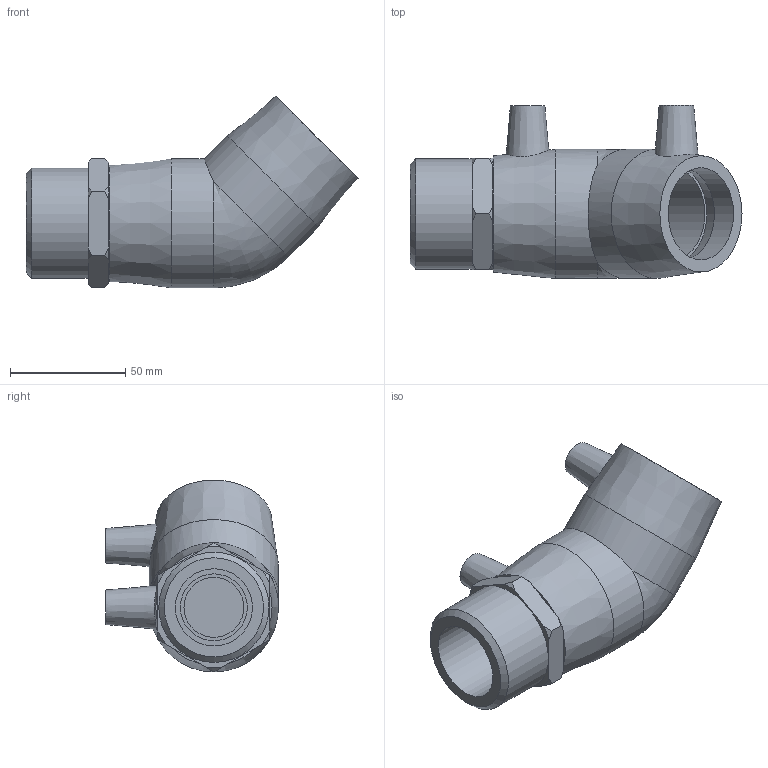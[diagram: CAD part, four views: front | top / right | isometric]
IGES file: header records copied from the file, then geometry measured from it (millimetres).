
Global section: file name: 492604040015.ipt; native system: Autodesk Inventor 2015; preprocessor: unknown; author: KIM; date: 20200202.122421; units: millimetre
Bounding box: 144 x 75 x 83.17 mm (x, y, z)
Volume: 201682.1 mm3; surface area: 47422.4 mm2
Topology: 1 solids, 2 shells, 59 faces, 142 edges, 97 vertices
Faces by surface type: plane 24, cone 17, revolution 10, cylinder 7, bspline 1
Full cylindrical faces by diameter (mm): 4 x2, 40 x2, 47.803 x1, 56 x2
